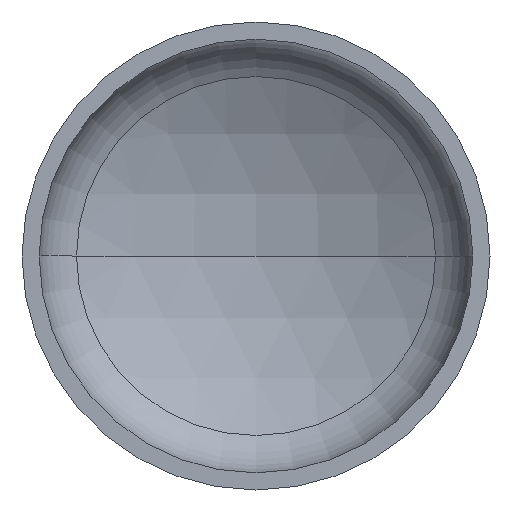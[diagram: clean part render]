
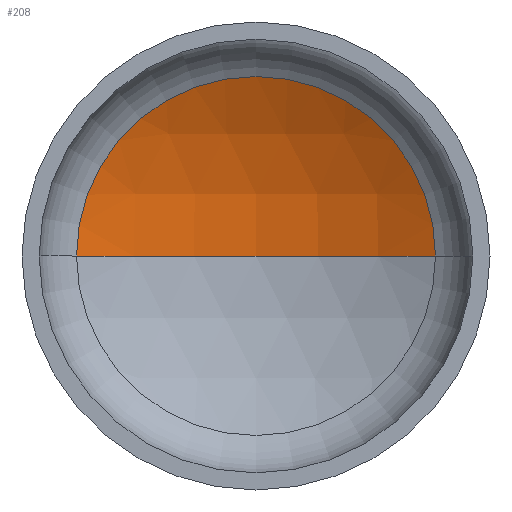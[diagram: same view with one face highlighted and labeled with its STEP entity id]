
A CAD part, front view. The second image highlights one B-rep face of the part: STEP entity #208.
In plain terms, the highlighted spherical face has radius 480 mm.
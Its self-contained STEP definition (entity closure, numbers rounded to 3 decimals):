
#4 = VERTEX_POINT ( 'NONE', #144 ) ;
#13 = AXIS2_PLACEMENT_3D ( 'NONE', #159, #201, #311 ) ;
#29 = AXIS2_PLACEMENT_3D ( 'NONE', #289, #308, #305 ) ;
#30 = AXIS2_PLACEMENT_3D ( 'NONE', #261, #260, #257 ) ;
#31 = AXIS2_PLACEMENT_3D ( 'NONE', #267, #265, #263 ) ;
#35 = CARTESIAN_POINT ( 'NONE',  ( 0., 209.489, 0. ) ) ;
#46 = ORIENTED_EDGE ( 'NONE', *, *, #80, .T. ) ;
#54 = ORIENTED_EDGE ( 'NONE', *, *, #82, .F. ) ;
#62 = SPHERICAL_SURFACE ( 'NONE', #13, 480. ) ;
#65 = VERTEX_POINT ( 'NONE', #217 ) ;
#67 = VERTEX_POINT ( 'NONE', #35 ) ;
#79 = EDGE_CURVE ( 'NONE', #65, #4, #276, .T. ) ;
#80 = EDGE_CURVE ( 'NONE', #67, #65, #210, .T. ) ;
#82 = EDGE_CURVE ( 'NONE', #67, #4, #111, .T. ) ;
#111 = CIRCLE ( 'NONE', #29, 480. ) ;
#144 = CARTESIAN_POINT ( 'NONE',  ( -230.103, 150.74, 0. ) ) ;
#154 = EDGE_LOOP ( 'NONE', ( #54, #46, #307 ) ) ;
#159 = CARTESIAN_POINT ( 'NONE',  ( 0., -270.511, 0. ) ) ;
#201 = DIRECTION ( 'NONE',  ( 0., 0., -1. ) ) ;
#208 = ADVANCED_FACE ( 'NONE', ( #310 ), #62, .F. ) ;
#210 = CIRCLE ( 'NONE', #30, 480. ) ;
#217 = CARTESIAN_POINT ( 'NONE',  ( 230.103, 150.74, 0. ) ) ;
#257 = DIRECTION ( 'NONE',  ( -1., 0., 0. ) ) ;
#260 = DIRECTION ( 'NONE',  ( 0., 0., -1. ) ) ;
#261 = CARTESIAN_POINT ( 'NONE',  ( 0., -270.511, 0. ) ) ;
#263 = DIRECTION ( 'NONE',  ( 1., 0., 0. ) ) ;
#265 = DIRECTION ( 'NONE',  ( 0., -1., 0. ) ) ;
#267 = CARTESIAN_POINT ( 'NONE',  ( 0., 150.74, 0. ) ) ;
#276 = CIRCLE ( 'NONE', #31, 230.103 ) ;
#289 = CARTESIAN_POINT ( 'NONE',  ( 0., -270.511, 0. ) ) ;
#305 = DIRECTION ( 'NONE',  ( 1., 0., 0. ) ) ;
#307 = ORIENTED_EDGE ( 'NONE', *, *, #79, .T. ) ;
#308 = DIRECTION ( 'NONE',  ( 0., 0., 1. ) ) ;
#310 = FACE_OUTER_BOUND ( 'NONE', #154, .T. ) ;
#311 = DIRECTION ( 'NONE',  ( -1., 0., 0. ) ) ;
